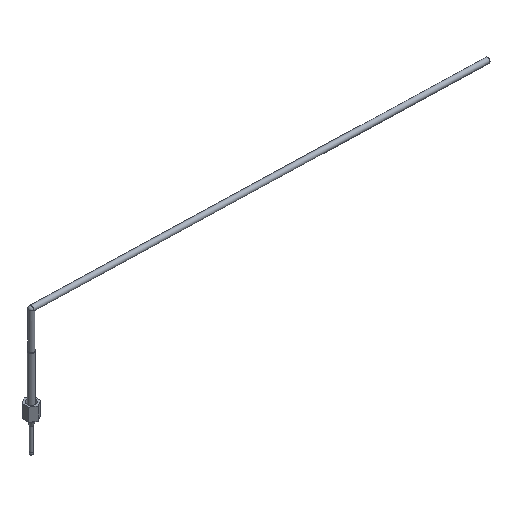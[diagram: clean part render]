
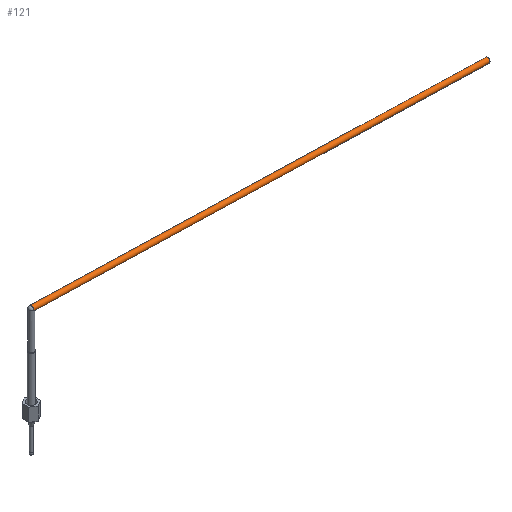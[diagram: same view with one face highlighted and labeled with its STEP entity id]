
A CAD part, isometric view. The second image highlights one B-rep face of the part: STEP entity #121.
In plain terms, the highlighted cylindrical face has radius 2.5 mm (diameter 5 mm), a full revolution.
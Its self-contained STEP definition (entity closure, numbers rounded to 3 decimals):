
#121 = ADVANCED_FACE( '', ( #265, #266 ), #267, .T. );
#265 = FACE_OUTER_BOUND( '', #411, .T. );
#266 = FACE_OUTER_BOUND( '', #412, .T. );
#267 = CYLINDRICAL_SURFACE( '', #413, 2.5 );
#411 = EDGE_LOOP( '', ( #630 ) );
#412 = EDGE_LOOP( '', ( #631, #632 ) );
#413 = AXIS2_PLACEMENT_3D( '', #633, #634, #635 );
#630 = ORIENTED_EDGE( '', *, *, #702, .F. );
#631 = ORIENTED_EDGE( '', *, *, #754, .T. );
#632 = ORIENTED_EDGE( '', *, *, #740, .T. );
#633 = CARTESIAN_POINT( '', ( 452.305, -13.272, 105.992 ) );
#634 = DIRECTION( '', ( 1., -0.029, 0. ) );
#635 = DIRECTION( '', ( -0.029, -1., 0. ) );
#702 = EDGE_CURVE( '', #801, #801, #802, .T. );
#740 = EDGE_CURVE( '', #856, #857, #859, .F. );
#754 = EDGE_CURVE( '', #857, #856, #877, .F. );
#801 = VERTEX_POINT( '', #929 );
#802 = CIRCLE( '', #930, 2.5 );
#856 = VERTEX_POINT( '', #992 );
#857 = VERTEX_POINT( '', #993 );
#859 = CIRCLE( '', #995, 2.5 );
#877 = ELLIPSE( '', #1016, 3.536, 2.5 );
#929 = CARTESIAN_POINT( '', ( 452.379, -10.773, 105.992 ) );
#930 = AXIS2_PLACEMENT_3D( '', #1065, #1066, #1067 );
#992 = CARTESIAN_POINT( '', ( 0.073, 2.499, 105.992 ) );
#993 = CARTESIAN_POINT( '', ( -0.073, -2.499, 105.992 ) );
#995 = AXIS2_PLACEMENT_3D( '', #1115, #1116, #1117 );
#1016 = AXIS2_PLACEMENT_3D( '', #1130, #1131, #1132 );
#1065 = CARTESIAN_POINT( '', ( 452.305, -13.272, 105.992 ) );
#1066 = DIRECTION( '', ( 1., -0.029, 0. ) );
#1067 = DIRECTION( '', ( 0.029, 1., 0. ) );
#1115 = CARTESIAN_POINT( '', ( 0., 0., 105.992 ) );
#1116 = DIRECTION( '', ( -1., 0.029, 0. ) );
#1117 = DIRECTION( '', ( -0.029, -1., 0. ) );
#1130 = CARTESIAN_POINT( '', ( 0., 0., 105.992 ) );
#1131 = DIRECTION( '', ( -0.707, 0.021, -0.707 ) );
#1132 = DIRECTION( '', ( -0.707, 0.021, 0.707 ) );
